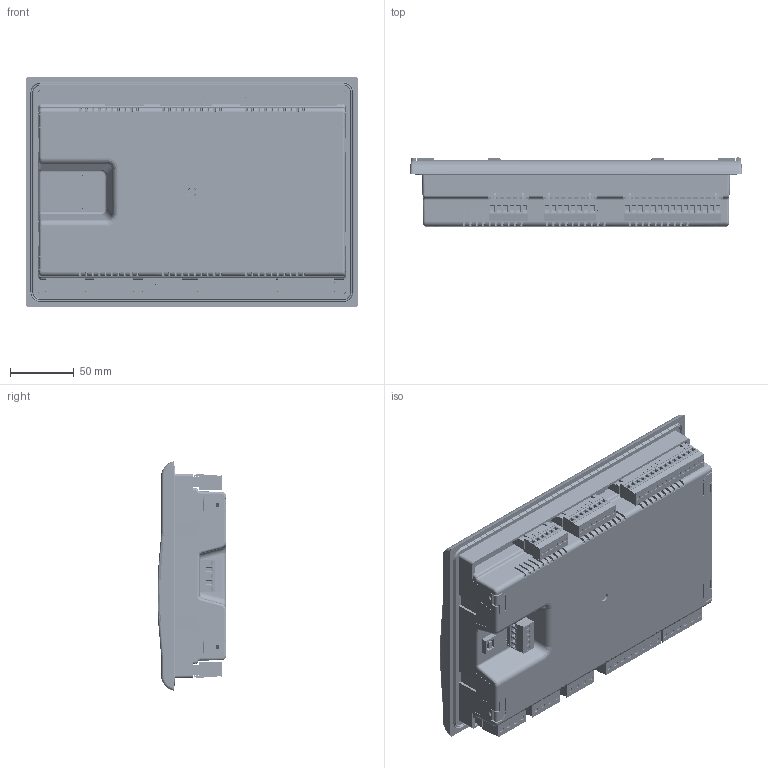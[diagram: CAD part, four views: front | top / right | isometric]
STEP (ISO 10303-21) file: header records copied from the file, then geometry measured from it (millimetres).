
FILE_DESCRIPTION (( 'STEP AP203' ), '1' );
FILE_NAME ('¿ØÖÆÆ÷.STEP', '2025-03-13T07:32:07', ( '' ), ( '' ), 'SwSTEP 2.0', 'SolidWorks 2018', '' );
FILE_SCHEMA (( 'CONFIG_CONTROL_DESIGN' ));
Products named in the file (3): 諷秶ん; 8LD.860.0455
Assembly tree (2 placements, depth 2):
  諷秶ん
    諷秶ん
    8LD.860.0455
Bounding box: 260 x 53.96 x 180 mm (x, y, z)
Volume: 1864282.9 mm3; surface area: 245136.7 mm2
Topology: 2 solids, 82 shells, 9812 faces, 26064 edges, 16518 vertices
Faces by surface type: plane 6649, cylinder 2344, torus 334, bspline 253, cone 232
Entity records: 319231 total; most frequent: CARTESIAN_POINT 77280, ORIENTED_EDGE 52126, DIRECTION 47656, EDGE_CURVE 26063, VECTOR 18758, LINE 18758, VERTEX_POINT 16518, AXIS2_PLACEMENT_3D 14449
